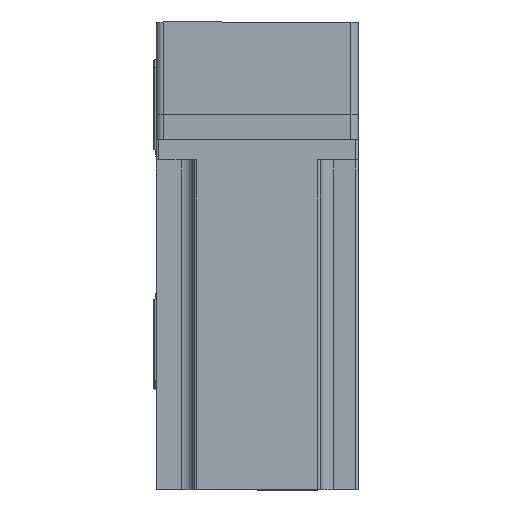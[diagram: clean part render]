
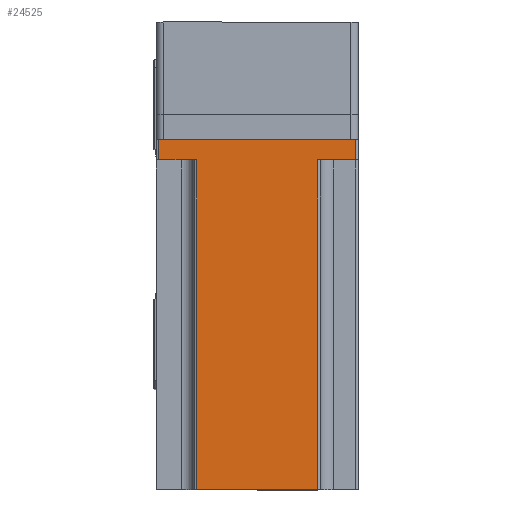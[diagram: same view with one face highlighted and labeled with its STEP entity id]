
A CAD part, top view. The second image highlights one B-rep face of the part: STEP entity #24525.
In plain terms, the highlighted planar face has unit normal (0, 0, 1) as drawn and (0, 1, 0) by its records, which use the part's own axes.
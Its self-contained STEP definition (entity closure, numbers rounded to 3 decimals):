
#955 = VECTOR ( 'NONE', #9550, 1000. ) ;
#1447 = DIRECTION ( 'NONE',  ( -1., 0., 0. ) ) ;
#1878 = CARTESIAN_POINT ( 'NONE',  ( -39., 40., 138.3 ) ) ;
#2198 = CARTESIAN_POINT ( 'NONE',  ( -24., 40., 138.3 ) ) ;
#2923 = LINE ( 'NONE', #35487, #20184 ) ;
#3128 = CARTESIAN_POINT ( 'NONE',  ( 39., 40., 138.3 ) ) ;
#3295 = VERTEX_POINT ( 'NONE', #23330 ) ;
#3730 = CARTESIAN_POINT ( 'NONE',  ( 39., 40., 0. ) ) ;
#4160 = DIRECTION ( 'NONE',  ( 0., -1., 0. ) ) ;
#4791 = AXIS2_PLACEMENT_3D ( 'NONE', #23619, #4160, #26886 ) ;
#4842 = VECTOR ( 'NONE', #30443, 1000. ) ;
#4961 = LINE ( 'NONE', #6150, #29895 ) ;
#5594 = ORIENTED_EDGE ( 'NONE', *, *, #36122, .F. ) ;
#6089 = DIRECTION ( 'NONE',  ( 0., 0., -1. ) ) ;
#6150 = CARTESIAN_POINT ( 'NONE',  ( -25., 40., 8. ) ) ;
#7706 = CARTESIAN_POINT ( 'NONE',  ( 40., 40., 138.3 ) ) ;
#9550 = DIRECTION ( 'NONE',  ( 0., 0., -1. ) ) ;
#10287 = ORIENTED_EDGE ( 'NONE', *, *, #20158, .T. ) ;
#10436 = CARTESIAN_POINT ( 'NONE',  ( 24., 40., 8. ) ) ;
#10588 = PLANE ( 'NONE',  #4791 ) ;
#12374 = ORIENTED_EDGE ( 'NONE', *, *, #18034, .T. ) ;
#12614 = CARTESIAN_POINT ( 'NONE',  ( 39., 40., 8. ) ) ;
#12679 = DIRECTION ( 'NONE',  ( 1., 0., 0. ) ) ;
#13755 = VECTOR ( 'NONE', #40837, 1000. ) ;
#14105 = VERTEX_POINT ( 'NONE', #36948 ) ;
#14884 = DIRECTION ( 'NONE',  ( -1., 0., 0. ) ) ;
#15009 = VECTOR ( 'NONE', #14884, 1000. ) ;
#15180 = ORIENTED_EDGE ( 'NONE', *, *, #32151, .F. ) ;
#15899 = ORIENTED_EDGE ( 'NONE', *, *, #33999, .T. ) ;
#17256 = EDGE_CURVE ( 'NONE', #32036, #31668, #18796, .T. ) ;
#18034 = EDGE_CURVE ( 'NONE', #3295, #33618, #2923, .T. ) ;
#18258 = LINE ( 'NONE', #3128, #955 ) ;
#18796 = LINE ( 'NONE', #40105, #26425 ) ;
#19074 = CARTESIAN_POINT ( 'NONE',  ( -39., 40., 0. ) ) ;
#20158 = EDGE_CURVE ( 'NONE', #27641, #14105, #26047, .T. ) ;
#20184 = VECTOR ( 'NONE', #6089, 1000. ) ;
#21675 = DIRECTION ( 'NONE',  ( 0., 0., 1. ) ) ;
#21713 = EDGE_CURVE ( 'NONE', #28522, #27641, #4961, .T. ) ;
#22048 = CARTESIAN_POINT ( 'NONE',  ( -39., 40., 8. ) ) ;
#23330 = CARTESIAN_POINT ( 'NONE',  ( 24., 40., 138.3 ) ) ;
#23619 = CARTESIAN_POINT ( 'NONE',  ( 40., 40., 138.3 ) ) ;
#24091 = CARTESIAN_POINT ( 'NONE',  ( -24., 40., 8. ) ) ;
#24525 = ADVANCED_FACE ( 'NONE', ( #27226 ), #10588, .F. ) ;
#26047 = LINE ( 'NONE', #2198, #41293 ) ;
#26425 = VECTOR ( 'NONE', #1447, 1000. ) ;
#26886 = DIRECTION ( 'NONE',  ( 1., 0., 0. ) ) ;
#27226 = FACE_OUTER_BOUND ( 'NONE', #28036, .T. ) ;
#27641 = VERTEX_POINT ( 'NONE', #24091 ) ;
#27680 = ORIENTED_EDGE ( 'NONE', *, *, #17256, .T. ) ;
#28036 = EDGE_LOOP ( 'NONE', ( #31069, #10287, #15180, #12374, #5594, #15899, #27680, #29240 ) ) ;
#28522 = VERTEX_POINT ( 'NONE', #22048 ) ;
#29240 = ORIENTED_EDGE ( 'NONE', *, *, #29754, .T. ) ;
#29754 = EDGE_CURVE ( 'NONE', #31668, #28522, #31074, .T. ) ;
#29895 = VECTOR ( 'NONE', #12679, 1000. ) ;
#30443 = DIRECTION ( 'NONE',  ( -1., 0., 0. ) ) ;
#30796 = LINE ( 'NONE', #7706, #4842 ) ;
#31069 = ORIENTED_EDGE ( 'NONE', *, *, #21713, .T. ) ;
#31074 = LINE ( 'NONE', #1878, #13755 ) ;
#31303 = LINE ( 'NONE', #37592, #15009 ) ;
#31668 = VERTEX_POINT ( 'NONE', #19074 ) ;
#32036 = VERTEX_POINT ( 'NONE', #3730 ) ;
#32151 = EDGE_CURVE ( 'NONE', #3295, #14105, #30796, .T. ) ;
#33618 = VERTEX_POINT ( 'NONE', #10436 ) ;
#33999 = EDGE_CURVE ( 'NONE', #36298, #32036, #18258, .T. ) ;
#35487 = CARTESIAN_POINT ( 'NONE',  ( 24., 40., 138.3 ) ) ;
#36122 = EDGE_CURVE ( 'NONE', #36298, #33618, #31303, .T. ) ;
#36298 = VERTEX_POINT ( 'NONE', #12614 ) ;
#36948 = CARTESIAN_POINT ( 'NONE',  ( -24., 40., 138.3 ) ) ;
#37592 = CARTESIAN_POINT ( 'NONE',  ( 25., 40., 8. ) ) ;
#40105 = CARTESIAN_POINT ( 'NONE',  ( 40., 40., 0. ) ) ;
#40837 = DIRECTION ( 'NONE',  ( 0., 0., 1. ) ) ;
#41293 = VECTOR ( 'NONE', #21675, 1000. ) ;
